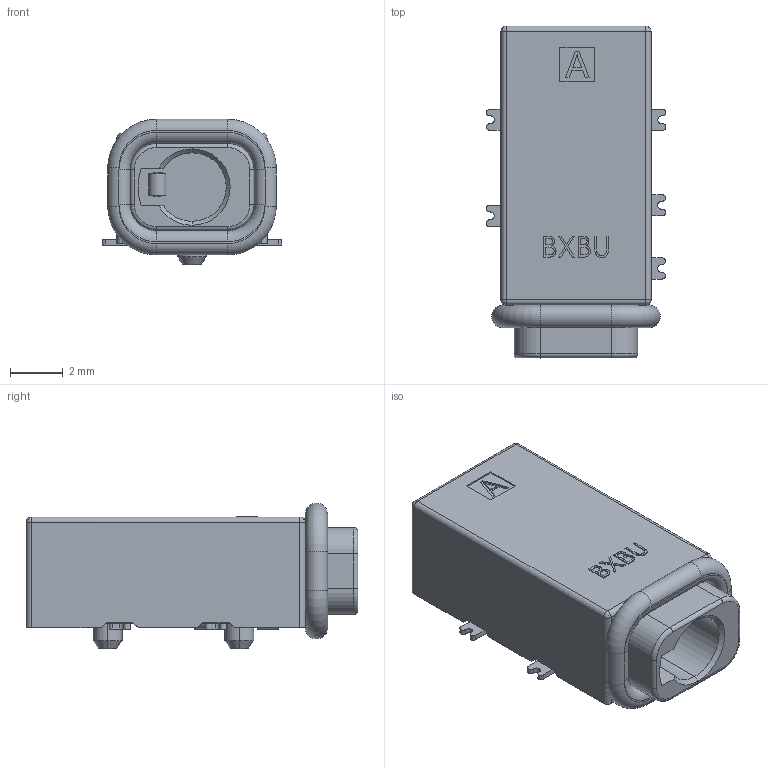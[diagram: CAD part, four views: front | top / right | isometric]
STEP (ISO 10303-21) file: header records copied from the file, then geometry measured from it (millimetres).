
FILE_DESCRIPTION((' '),'2;1');
FILE_NAME( 'PJ25A081-05SF.stp', '2026-05-12T17:26:21', (' '), ('--- ---'), ' V2026.1 Dec 31 2025', ' 2026 (c)', ' ');
FILE_SCHEMA(('AP242_MANAGED_MODEL_BASED_3D_ENGINEERING_MIM_LF { 1 0 10303 442 1 1 4 }'));
Length unit declared in the file: millimetre
Products named in the file (19): MSBR-13; MSBR-14; MSBR-2; MSBR-4; MSBR-7; MSBR-9; MSBR-17; MSBR-8; MSBR-3; MSBR-11; MSBR-6; MSBR-15; MSBR-12; MSBR-1; MSBR-10; MSBR-16; MSBR-5; PJ25A081-05SF(2); PJ25A081-05SF
Assembly tree (18 placements, depth 3):
  PJ25A081-05SF
    PJ25A081-05SF(2)
      MSBR-13
      MSBR-14
      MSBR-2
      MSBR-4
      MSBR-7
      MSBR-9
      MSBR-17
      MSBR-8
      MSBR-3
      MSBR-11
      MSBR-6
      MSBR-15
      MSBR-12
      MSBR-1
      MSBR-10
      MSBR-16
      MSBR-5
Bounding box: 6.82 x 12.6 x 5.53 mm (x, y, z)
Volume: 314.7 mm3; surface area: 637.3 mm2
Topology: 17 solids, 17 shells, 541 faces, 1405 edges, 909 vertices
Faces by surface type: plane 342, cylinder 126, bspline 31, torus 22, cone 13, sphere 7
Entity records: 18534 total; most frequent: CARTESIAN_POINT 4954, ORIENTED_EDGE 2804, DIRECTION 2670, EDGE_CURVE 1402, VECTOR 998, LINE 998, VERTEX_POINT 909, AXIS2_PLACEMENT_3D 836
